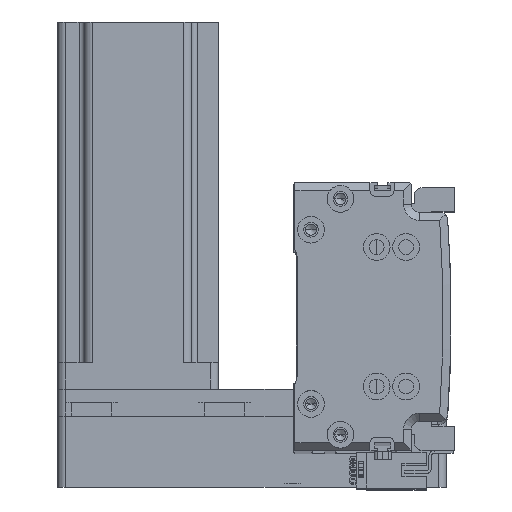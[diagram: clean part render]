
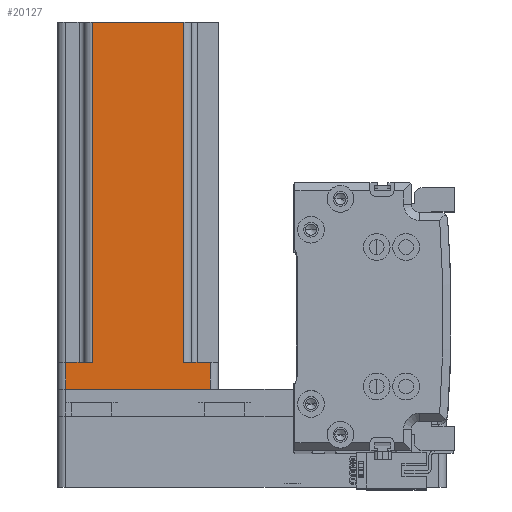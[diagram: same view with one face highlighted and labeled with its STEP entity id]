
A CAD part, top view. The second image highlights one B-rep face of the part: STEP entity #20127.
In plain terms, the highlighted planar face has unit normal (0, 0, 1) as drawn and (0, 1, 0) by its records, which use the part's own axes.
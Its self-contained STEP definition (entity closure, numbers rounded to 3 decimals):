
#2423 = VECTOR ( 'NONE', #11242, 1000. ) ;
#2540 = ORIENTED_EDGE ( 'NONE', *, *, #17630, .F. ) ;
#3484 = EDGE_CURVE ( 'NONE', #31057, #10522, #40049, .T. ) ;
#4586 = LINE ( 'NONE', #17058, #15417 ) ;
#4739 = LINE ( 'NONE', #35410, #22966 ) ;
#5262 = VECTOR ( 'NONE', #6425, 1000. ) ;
#6293 = CARTESIAN_POINT ( 'NONE',  ( -17., 30., 137. ) ) ;
#6425 = DIRECTION ( 'NONE',  ( 0., 0., -1. ) ) ;
#9791 = CARTESIAN_POINT ( 'NONE',  ( 30., 30., 137. ) ) ;
#10404 = DIRECTION ( 'NONE',  ( 1., 0., 0. ) ) ;
#10522 = VERTEX_POINT ( 'NONE', #35159 ) ;
#11242 = DIRECTION ( 'NONE',  ( -1., 0., 0. ) ) ;
#12848 = EDGE_CURVE ( 'NONE', #21650, #31057, #18231, .T. ) ;
#13495 = DIRECTION ( 'NONE',  ( -1., 0., 0. ) ) ;
#13906 = VERTEX_POINT ( 'NONE', #29507 ) ;
#14282 = CARTESIAN_POINT ( 'NONE',  ( -17., 30., 10. ) ) ;
#14590 = VERTEX_POINT ( 'NONE', #34731 ) ;
#14928 = LINE ( 'NONE', #20928, #5262 ) ;
#14976 = DIRECTION ( 'NONE',  ( 0., 0., 1. ) ) ;
#15417 = VECTOR ( 'NONE', #17205, 1000. ) ;
#16158 = PLANE ( 'NONE',  #18493 ) ;
#16321 = CARTESIAN_POINT ( 'NONE',  ( 30., 30., 137. ) ) ;
#16861 = VECTOR ( 'NONE', #13495, 1000. ) ;
#17058 = CARTESIAN_POINT ( 'NONE',  ( -17., 30., 137. ) ) ;
#17205 = DIRECTION ( 'NONE',  ( 0., 0., 1. ) ) ;
#17209 = ORIENTED_EDGE ( 'NONE', *, *, #40850, .T. ) ;
#17630 = EDGE_CURVE ( 'NONE', #21650, #14590, #28748, .T. ) ;
#18231 = LINE ( 'NONE', #19403, #35339 ) ;
#18295 = VERTEX_POINT ( 'NONE', #14282 ) ;
#18493 = AXIS2_PLACEMENT_3D ( 'NONE', #16321, #41810, #19986 ) ;
#19403 = CARTESIAN_POINT ( 'NONE',  ( 27., 30., 137. ) ) ;
#19986 = DIRECTION ( 'NONE',  ( 1., 0., 0. ) ) ;
#20127 = ADVANCED_FACE ( 'NONE', ( #42575 ), #16158, .F. ) ;
#20928 = CARTESIAN_POINT ( 'NONE',  ( 17., 30., 137. ) ) ;
#21186 = VERTEX_POINT ( 'NONE', #30065 ) ;
#21650 = VERTEX_POINT ( 'NONE', #45677 ) ;
#21891 = LINE ( 'NONE', #33132, #30469 ) ;
#22441 = EDGE_CURVE ( 'NONE', #13906, #14590, #14928, .T. ) ;
#22966 = VECTOR ( 'NONE', #10404, 1000. ) ;
#23057 = DIRECTION ( 'NONE',  ( 0., 0., -1. ) ) ;
#23178 = ORIENTED_EDGE ( 'NONE', *, *, #12848, .T. ) ;
#24354 = CARTESIAN_POINT ( 'NONE',  ( 20., 30., 10. ) ) ;
#25203 = EDGE_LOOP ( 'NONE', ( #17209, #36037, #38473, #44299, #2540, #23178, #45159, #32704 ) ) ;
#26941 = VERTEX_POINT ( 'NONE', #6293 ) ;
#28748 = LINE ( 'NONE', #24354, #46946 ) ;
#29507 = CARTESIAN_POINT ( 'NONE',  ( 17., 30., 137. ) ) ;
#30065 = CARTESIAN_POINT ( 'NONE',  ( -27., 30., 10. ) ) ;
#30119 = EDGE_CURVE ( 'NONE', #13906, #26941, #45886, .T. ) ;
#30469 = VECTOR ( 'NONE', #14976, 1000. ) ;
#31057 = VERTEX_POINT ( 'NONE', #36933 ) ;
#32704 = ORIENTED_EDGE ( 'NONE', *, *, #36812, .T. ) ;
#33132 = CARTESIAN_POINT ( 'NONE',  ( -27., 30., 137. ) ) ;
#34731 = CARTESIAN_POINT ( 'NONE',  ( 17., 30., 10. ) ) ;
#35159 = CARTESIAN_POINT ( 'NONE',  ( -27., 30., 0. ) ) ;
#35339 = VECTOR ( 'NONE', #23057, 1000. ) ;
#35410 = CARTESIAN_POINT ( 'NONE',  ( -20., 30., 10. ) ) ;
#36037 = ORIENTED_EDGE ( 'NONE', *, *, #38509, .T. ) ;
#36718 = CARTESIAN_POINT ( 'NONE',  ( 30., 30., 0. ) ) ;
#36812 = EDGE_CURVE ( 'NONE', #10522, #21186, #21891, .T. ) ;
#36933 = CARTESIAN_POINT ( 'NONE',  ( 27., 30., 0. ) ) ;
#38473 = ORIENTED_EDGE ( 'NONE', *, *, #30119, .F. ) ;
#38509 = EDGE_CURVE ( 'NONE', #18295, #26941, #4586, .T. ) ;
#39018 = DIRECTION ( 'NONE',  ( -1., 0., 0. ) ) ;
#40049 = LINE ( 'NONE', #36718, #2423 ) ;
#40850 = EDGE_CURVE ( 'NONE', #21186, #18295, #4739, .T. ) ;
#41810 = DIRECTION ( 'NONE',  ( 0., -1., 0. ) ) ;
#42575 = FACE_OUTER_BOUND ( 'NONE', #25203, .T. ) ;
#44299 = ORIENTED_EDGE ( 'NONE', *, *, #22441, .T. ) ;
#45159 = ORIENTED_EDGE ( 'NONE', *, *, #3484, .T. ) ;
#45677 = CARTESIAN_POINT ( 'NONE',  ( 27., 30., 10. ) ) ;
#45886 = LINE ( 'NONE', #9791, #16861 ) ;
#46946 = VECTOR ( 'NONE', #39018, 1000. ) ;
